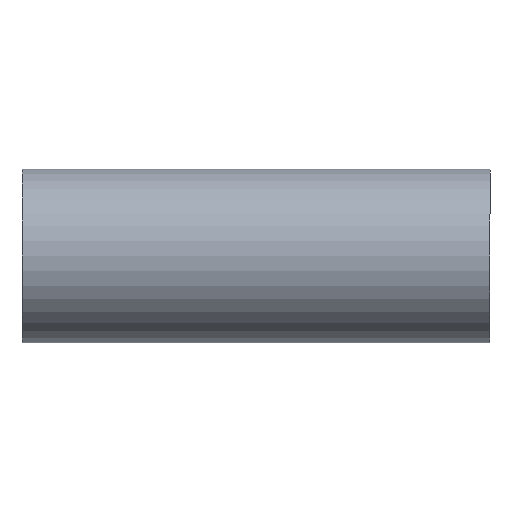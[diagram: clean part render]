
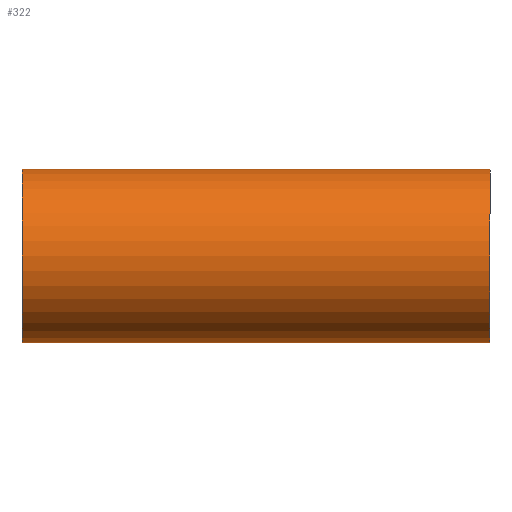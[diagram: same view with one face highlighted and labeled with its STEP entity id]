
A CAD part, left-side view. The second image highlights one B-rep face of the part: STEP entity #322.
In plain terms, the highlighted cylindrical face has radius 18 mm (diameter 36 mm), a partial arc.
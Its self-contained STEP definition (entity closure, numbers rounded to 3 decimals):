
#24=CYLINDRICAL_SURFACE('',#911,18.);
#322=ADVANCED_FACE('',(#351),#24,.T.);
#351=FACE_OUTER_BOUND('',#380,.T.);
#380=EDGE_LOOP('',(#462,#463,#464,#465));
#462=ORIENTED_EDGE('',*,*,#545,.T.);
#463=ORIENTED_EDGE('',*,*,#546,.F.);
#464=ORIENTED_EDGE('',*,*,#547,.T.);
#465=ORIENTED_EDGE('',*,*,#548,.T.);
#545=EDGE_CURVE('',#735,#737,#670,.T.);
#546=EDGE_CURVE('',#736,#737,#603,.T.);
#547=EDGE_CURVE('',#736,#734,#671,.T.);
#548=EDGE_CURVE('',#734,#735,#604,.T.);
#603=TRIMMED_CURVE($,#637,(#1294),(#1295),.T.,.CARTESIAN.);
#604=TRIMMED_CURVE($,#638,(#1299),(#1300),.T.,.CARTESIAN.);
#637=CIRCLE('',#912,18.);
#638=CIRCLE('',#913,18.);
#670=B_SPLINE_CURVE_WITH_KNOTS('',1,(#1291,#1292),.UNSPECIFIED.,.F.,.F.,
(2,2),(0.,97.),.UNSPECIFIED.);
#671=B_SPLINE_CURVE_WITH_KNOTS('',1,(#1296,#1297),.UNSPECIFIED.,.F.,.F.,
(2,2),(0.,97.),.UNSPECIFIED.);
#734=VERTEX_POINT('',#1287);
#735=VERTEX_POINT('',#1288);
#736=VERTEX_POINT('',#1289);
#737=VERTEX_POINT('',#1290);
#911=AXIS2_PLACEMENT_3D('',#1286,#1000,$);
#912=AXIS2_PLACEMENT_3D($,#1293,#1001,#1002);
#913=AXIS2_PLACEMENT_3D($,#1298,#1003,#1004);
#1000=DIRECTION('',(0.,-1.,0.));
#1001=DIRECTION('',(0.,-1.,0.));
#1002=DIRECTION('',(0.,0.,1.));
#1003=DIRECTION('',(0.,-1.,0.));
#1004=DIRECTION('',(0.,0.,1.));
#1286=CARTESIAN_POINT('',(1203.39,366.622,83.905));
#1287=CARTESIAN_POINT('',(1203.39,415.122,101.905));
#1288=CARTESIAN_POINT('',(1203.39,415.122,65.905));
#1289=CARTESIAN_POINT('',(1203.39,318.122,101.905));
#1290=CARTESIAN_POINT('',(1203.39,318.122,65.905));
#1291=CARTESIAN_POINT('',(1203.39,415.122,65.905));
#1292=CARTESIAN_POINT('',(1203.39,318.122,65.905));
#1293=CARTESIAN_POINT('',(1203.39,318.122,83.905));
#1294=CARTESIAN_POINT('',(1203.39,318.122,101.905));
#1295=CARTESIAN_POINT('',(1203.39,318.122,65.905));
#1296=CARTESIAN_POINT('',(1203.39,318.122,101.905));
#1297=CARTESIAN_POINT('',(1203.39,415.122,101.905));
#1298=CARTESIAN_POINT('',(1203.39,415.122,83.905));
#1299=CARTESIAN_POINT('',(1203.39,415.122,101.905));
#1300=CARTESIAN_POINT('',(1203.39,415.122,65.905));
